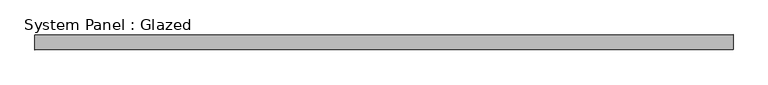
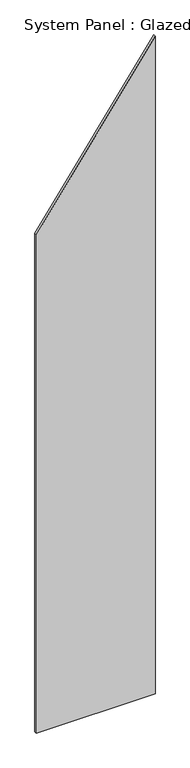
"""IFC4 building model written with IfcOpenShell, lengths in millimetres: plate geometry, System Panel : Glazed."""

from ifc_helpers import new_model, si_unit, frame, origin, place, context, project, spatial, polyline, outline, extrude, source, transform, mapped, element, save


def system_panel_glazed_759725ad(model_context):
    return source(origin(), model_context, "Body", "SweptSolid", [
        extrude(outline(polyline([(0.0, -583.8214844), (0.0, 583.8214844), (6838.3924866, 583.8214844), (5182.5887299, -583.8214844), (0.0, -583.8214844)])), frame((0.0, -12.5, 0.0), z_axis=(0.0, 1.0, 0.0), x_axis=(0.0, 0.0, 1.0)), (0.0, 0.0, 1.0), 25.0),
    ])


if __name__ == "__main__":
    model = new_model("IFC4")
    model_context = context("Model", 3, world=origin())
    ifc_project = project(units=[si_unit("LENGTHUNIT", "METRE", prefix="MILLI")], contexts=[model_context])
    site = spatial("IfcSite", under=ifc_project)
    building = spatial("IfcBuilding", under=site)
    placement = place(None, origin())
    system_panel_glazed_shape = system_panel_glazed_759725ad(model_context)
    element("IfcPlate", 1, ObjectType="System Panel : Glazed", at=placement, inside=building, context=model_context, shape_type="MappedRepresentation", body=[
        mapped(system_panel_glazed_shape, transform((0.0, 0.0, 0.0), x_axis=(1.0, 0.0, 0.0), y_axis=(0.0, 1.0, 0.0), z_axis=(0.0, 0.0, 1.0))),
    ])
    save(model, "model.ifc")
